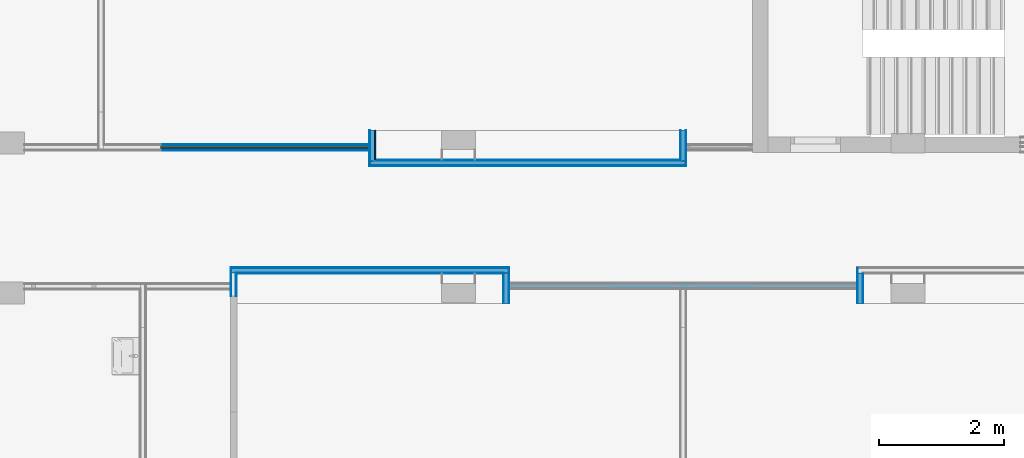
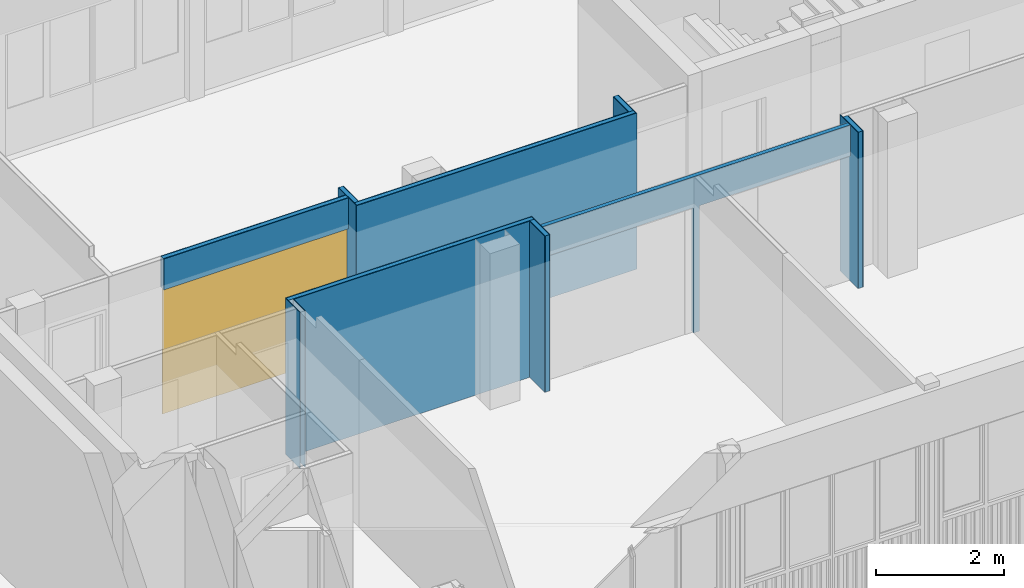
# One storey, part 73 of 117: 24 building element parts, 1 window, 3 openings, 9 elements without a shape of their own.
"""IFC2X3 building model written with IfcOpenShell, lengths in millimetres."""

from ifc_helpers import new_model, entity, si_unit, converted_unit, derived_unit, money_unit, direction, frame, origin_with_axes, place, context, subcontext, project, spatial, open_shell, faceted_brep, surface_model, material, type_object, element, fill, aggregate, save


model = new_model("IFC2X3")

# Units and contexts
model_context = context("Model", 3, precision=0.01, world=origin_with_axes(), true_north=direction((0.0, 1.0)))
body_context = subcontext(model_context, "Body", "Model", "MODEL_VIEW")
ifc_project = project(units=[si_unit("LENGTHUNIT", "METRE", prefix="MILLI"), si_unit("AREAUNIT", "SQUARE_METRE"), si_unit("VOLUMEUNIT", "CUBIC_METRE"), converted_unit("PLANEANGLEUNIT", "DEGREE", entity("IfcPlaneAngleMeasure", 0.0174532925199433), si_unit("PLANEANGLEUNIT", "RADIAN"), dimensions=[0, 0, 0, 0, 0, 0, 0]), money_unit("EUR"), converted_unit("TIMEUNIT", "Year", entity("IfcTimeMeasure", 31557600.0), si_unit("TIMEUNIT", "SECOND"), dimensions=[0, 0, 1, 0, 0, 0, 0]), si_unit("MASSUNIT", "GRAM", prefix="KILO"), si_unit("THERMODYNAMICTEMPERATUREUNIT", "DEGREE_CELSIUS"), si_unit("LUMINOUSINTENSITYUNIT", "LUMEN"), si_unit("ENERGYUNIT", "JOULE", prefix="MEGA"), derived_unit("THERMALCONDUCTANCEUNIT", [(si_unit("POWERUNIT", "WATT"), 1), (si_unit("LENGTHUNIT", "METRE"), -1), (si_unit("THERMODYNAMICTEMPERATUREUNIT", "KELVIN"), -1)]), derived_unit("SPECIFICHEATCAPACITYUNIT", [(si_unit("ENERGYUNIT", "JOULE"), 1), (si_unit("MASSUNIT", "GRAM", prefix="KILO"), -1), (si_unit("THERMODYNAMICTEMPERATUREUNIT", "KELVIN"), -1)]), derived_unit("MASSDENSITYUNIT", [(si_unit("MASSUNIT", "GRAM", prefix="KILO"), 1), (si_unit("VOLUMEUNIT", "CUBIC_METRE"), -1)])], contexts=[model_context])

# Site, building, storey
site_placement = place(None, origin_with_axes())
site = spatial("IfcSite", under=ifc_project, at=site_placement, Name="Site", CompositionType="ELEMENT")
building_placement = place(site_placement, origin_with_axes())
building = spatial("IfcBuilding", under=site, at=building_placement, Name="Naam gebouw", CompositionType="ELEMENT")
storey_placement = place(building_placement, frame((0.0, 0.0, 4150.0), z_axis=(0.0, 0.0, 1.0), x_axis=(1.0, 0.0, 0.0)))
storey = spatial("IfcBuildingStorey", under=building, at=storey_placement, Name="1e verdieping N", CompositionType="ELEMENT", Elevation=4150.0)

# Window
window_style = type_object("IfcWindowStyle", Name="R1 26", ConstructionType="NOTDEFINED", OperationType="SINGLE_PANEL", ParameterTakesPrecedence=False, Sizeable=False)
wall_8_placement = place(storey_placement, frame((2429.986500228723, 12825.85635739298, 0.0), z_axis=(0.0, 0.0, 1.0), x_axis=(1.0, 0.0, 0.0)))
opening_3_placement = place(wall_8_placement, frame((1672.256490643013, 0.0, 0.0), z_axis=(0.0, 0.0, 1.0), x_axis=(1.0, 0.0, 0.0)))
window_placement = place(opening_3_placement, frame((-1672.256490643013, 0.0, 0.0), z_axis=(0.0, 0.0, 1.0), x_axis=(1.0, 0.0, 0.0)))
window = element("IfcWindow", 1, at=window_placement, inside=storey, type_object=window_style, Name="_Merk-002", ObjectType="WINDOW", OverallHeight=2400.0, OverallWidth=3344.51, context=body_context, shape_type="SurfaceModel", body=[
    faceted_brep([(3314.512981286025, -9.999999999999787, 2370.0), (3344.512981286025, -9.999999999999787, 2370.0), (3344.512981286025, 9.999999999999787, 2370.0), (3314.512981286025, 9.999999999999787, 2370.0), (3314.512981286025, -9.999999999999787, 30.00000000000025), (3344.512981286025, -9.999999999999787, 30.00000000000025), (3344.512981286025, 9.999999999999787, 30.00000000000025), (3314.512981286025, 9.999999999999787, 30.00000000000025)], [[[0, 1, 2, 3]], [[0, 4, 5, 1]], [[1, 5, 6, 2]], [[3, 2, 6, 7]], [[4, 0, 3, 7]], [[5, 4, 7, 6]]]),
    faceted_brep([(29.9999999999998, -9.999999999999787, 30.00000000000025), (0.0, -9.999999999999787, 30.00000000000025), (0.0, 9.999999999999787, 30.00000000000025), (29.9999999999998, 9.999999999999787, 30.00000000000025), (29.9999999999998, -9.999999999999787, 2370.0), (0.0, -9.999999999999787, 2370.0), (0.0, 9.999999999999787, 2370.0), (29.9999999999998, 9.999999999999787, 2370.0)], [[[0, 1, 2, 3]], [[0, 4, 5, 1]], [[1, 5, 6, 2]], [[3, 2, 6, 7]], [[4, 0, 3, 7]], [[5, 4, 7, 6]]]),
    faceted_brep([(3314.512981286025, -9.999999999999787, 30.00000000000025), (3344.512981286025, -9.999999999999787, 30.00000000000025), (3344.512981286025, 9.999999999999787, 30.00000000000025), (3314.512981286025, 9.999999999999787, 30.00000000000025), (29.9999999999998, -9.999999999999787, 30.00000000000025), (0.0, -9.999999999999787, 30.00000000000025), (0.0, -9.999999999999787, 0.0), (3344.512981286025, -9.999999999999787, 0.0), (3344.512981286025, 9.999999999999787, 0.0), (0.0, 9.999999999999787, 0.0), (0.0, 9.999999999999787, 30.00000000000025), (29.9999999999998, 9.999999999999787, 30.00000000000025)], [[[0, 1, 2, 3]], [[0, 4, 5, 6, 7, 1]], [[1, 7, 8, 2]], [[3, 2, 8, 9, 10, 11]], [[4, 0, 3, 11]], [[5, 4, 11, 10]], [[6, 5, 10, 9]], [[7, 6, 9, 8]]]),
    faceted_brep([(29.9999999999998, -9.999999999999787, 2370.0), (0.0, -9.999999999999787, 2370.0), (0.0, 9.999999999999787, 2370.0), (29.9999999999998, 9.999999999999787, 2370.0), (3314.512981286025, -9.999999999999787, 2370.0), (3344.512981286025, -9.999999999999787, 2370.0), (3344.512981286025, -9.999999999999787, 2400.0), (0.0, -9.999999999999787, 2400.0), (0.0, 9.999999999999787, 2400.0), (3344.512981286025, 9.999999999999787, 2400.0), (3344.512981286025, 9.999999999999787, 2370.0), (3314.512981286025, 9.999999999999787, 2370.0)], [[[0, 1, 2, 3]], [[0, 4, 5, 6, 7, 1]], [[1, 7, 8, 2]], [[3, 2, 8, 9, 10, 11]], [[4, 0, 3, 11]], [[5, 4, 11, 10]], [[6, 5, 10, 9]], [[7, 6, 9, 8]]]),
    surface_model("IfcShellBasedSurfaceModel", [(3314.512981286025, -9.999999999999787, 30.00000000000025), (3314.512981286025, -9.999999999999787, 2370.0), (29.9999999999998, -9.999999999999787, 2370.0), (29.9999999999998, -9.999999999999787, 30.00000000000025)], [open_shell([[[0, 1, 2, 3]]])]),
    surface_model("IfcShellBasedSurfaceModel", [(3314.512981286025, 0.0, 30.00000000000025), (29.9999999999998, 0.0, 30.00000000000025), (29.9999999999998, 0.0, 2370.0), (3314.512981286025, 0.0, 2370.0)], [open_shell([[[0, 1, 2, 3]]])]),
])

# Wall, building element parts
wall_type = type_object("IfcWallType", Name="Metalstud iso 100 100", PredefinedType="NOTDEFINED")
wall_1_placement = place(storey_placement, frame((5874.499481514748, 13100.85635739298, 0.0), z_axis=(0.0, 0.0, 1.0), x_axis=(0.0, -1.0, 0.0)))
wall_1 = element("IfcWall", 2, at=wall_1_placement, inside=storey, type_object=wall_type, Name="_Wand-x")
ifc_material_1 = material(Name="Gipsplaat")
building_element_part_1_placement = place(wall_1_placement, origin_with_axes())
building_element_part_1 = element("IfcBuildingElementPart", 3, at=building_element_part_1_placement, material=ifc_material_1, Name="Gipsplaat", context=body_context, shape_type="Brep", body=[
    faceted_brep([(3.255706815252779e-08, -12.50000000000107, 2049.999999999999), (6.646239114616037e-08, 0.0, 2049.999999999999), (0.0, 0.0, 0.0), (0.0, -12.50000000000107, 0.0), (430.0000000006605, 0.0, 2049.999999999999), (430.0000000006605, -12.50000000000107, 2049.999999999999), (450.0000000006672, 0.0, 2049.999999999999), (450.0000000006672, 0.0, 2069.999999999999), (6.646239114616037e-08, 0.0, 2069.999999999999), (0.0, 0.0, 2990.000000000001), (474.9999999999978, 0.0, 2990.000000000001), (474.9999999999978, 0.0, 0.0), (430.0000000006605, 0.0, 49.99999999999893), (450.0000000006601, 0.0, 49.99999999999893), (474.9999999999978, -12.50000000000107, 0.0), (450.0000000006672, -12.50000000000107, 2069.999999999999), (450.0000000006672, -12.50000000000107, 2049.999999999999), (450.0000000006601, -12.50000000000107, 49.99999999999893), (430.0000000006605, -12.50000000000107, 49.99999999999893), (474.9999999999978, -12.50000000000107, 2990.000000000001), (0.0, -12.50000000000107, 2990.000000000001), (3.255706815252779e-08, -12.50000000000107, 2069.999999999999)], [[[0, 1, 2, 3]], [[4, 1, 0, 5]], [[6, 7, 8, 9, 10, 11, 2, 1, 4, 12, 13]], [[2, 11, 14, 3]], [[15, 16, 17, 18, 5, 0, 3, 14, 19, 20, 21]], [[4, 5, 18, 12]], [[7, 6, 16, 15]], [[21, 8, 7, 15]], [[8, 21, 20, 9]], [[10, 9, 20, 19]], [[10, 19, 14, 11]], [[17, 13, 12, 18]], [[16, 6, 13, 17]]]),
])
ifc_material_2 = material(Name="Isolatie - Steenwol LSW")
building_element_part_2_placement = place(wall_1_placement, origin_with_axes())
building_element_part_2 = element("IfcBuildingElementPart", 4, at=building_element_part_2_placement, material=ifc_material_2, Name="Isolatie - Steenwol LSW", context=body_context, shape_type="Brep", body=[
    faceted_brep([(450.0000000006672, -12.50000000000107, 2049.999999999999), (450.0000000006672, -12.50000000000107, 2069.999999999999), (3.255706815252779e-08, -12.50000000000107, 2069.999999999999), (0.0, -12.50000000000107, 2990.000000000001), (487.4999999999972, -12.50000000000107, 2990.000000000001), (487.4999999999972, -12.50000000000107, 0.0), (0.0, -12.50000000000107, 0.0), (3.255706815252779e-08, -12.50000000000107, 2049.999999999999), (430.0000000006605, -12.50000000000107, 2049.999999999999), (430.0000000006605, -12.50000000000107, 49.99999999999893), (450.0000000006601, -12.50000000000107, 49.99999999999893), (450.0000000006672, -24.49948151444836, 2049.999999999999), (450.0000000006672, -24.49948151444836, 2069.999999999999), (0.0, -24.49948151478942, 2069.999999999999), (0.0, -24.49948151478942, 2049.999999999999), (0.0, -87.50000000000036, 0.0), (0.0, -87.50000000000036, 2990.000000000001), (487.4999999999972, -87.50000000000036, 2990.000000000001), (487.4999999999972, -87.50000000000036, 0.0), (430.0000000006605, -24.49948151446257, 2049.999999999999), (430.0000000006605, -24.49948151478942, 49.99999999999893), (450.0000000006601, -24.49948151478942, 49.99999999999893)], [[[0, 1, 2, 3, 4, 5, 6, 7, 8, 9, 10]], [[1, 0, 11, 12]], [[13, 2, 1, 12]], [[14, 7, 6, 15, 16, 3, 2, 13]], [[4, 3, 16, 17]], [[4, 17, 18, 5]], [[6, 5, 18, 15]], [[8, 7, 14, 19]], [[8, 19, 20, 9]], [[21, 10, 9, 20]], [[11, 0, 10, 21]], [[14, 13, 12, 11, 19]], [[17, 16, 15, 18]], [[19, 11, 21, 20]]]),
])
building_element_part_3_placement = place(wall_1_placement, origin_with_axes())
building_element_part_3 = element("IfcBuildingElementPart", 5, at=building_element_part_3_placement, material=ifc_material_1, Name="Gipsplaat", context=body_context, shape_type="Brep", body=[
    faceted_brep([(0.0, -99.99999999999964, 2990.000000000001), (0.0, -87.50000000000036, 2990.000000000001), (0.0, -87.50000000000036, 0.0), (0.0, -99.99999999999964, 0.0), (562.4999999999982, -87.50000000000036, 2990.000000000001), (562.4999999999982, -99.99999999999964, 2990.000000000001), (562.4999999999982, -87.50000000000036, 0.0), (562.4999999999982, -99.99999999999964, 0.0)], [[[0, 1, 2, 3]], [[4, 1, 0, 5]], [[1, 4, 6, 2]], [[6, 7, 3, 2]], [[5, 0, 3, 7]], [[4, 5, 7, 6]]]),
])
aggregate(wall_1, [building_element_part_1, building_element_part_2, building_element_part_3])

wall_2_placement = place(storey_placement, frame((13684.99999999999, 10330.91242510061, 0.0), z_axis=(0.0, 0.0, 1.0), x_axis=(0.0, 1.0, 0.0)))
wall_2 = element("IfcWall", 6, at=wall_2_placement, inside=storey, type_object=wall_type, Name="_Wand-x")
building_element_part_4_placement = place(wall_2_placement, origin_with_axes())
building_element_part_4 = element("IfcBuildingElementPart", 7, at=building_element_part_4_placement, material=ifc_material_2, Name="Isolatie - Steenwol LSW", context=body_context, shape_type="Brep", body=[
    faceted_brep([(487.4999999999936, 87.50000000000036, 2990.000000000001), (487.4999999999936, 12.50000000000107, 2990.000000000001), (487.4999999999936, 12.49999999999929, 0.0), (487.4999999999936, 87.50000000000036, 0.0), (0.0, 12.50000000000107, 2990.000000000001), (0.0, 87.50000000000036, 2990.000000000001), (0.0, 12.49999999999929, 0.0), (0.0, 87.50000000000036, 0.0)], [[[0, 1, 2, 3]], [[4, 1, 0, 5]], [[1, 4, 6, 2]], [[3, 2, 6, 7]], [[5, 0, 3, 7]], [[4, 5, 7, 6]]]),
])
building_element_part_5_placement = place(wall_2_placement, origin_with_axes())
building_element_part_5 = element("IfcBuildingElementPart", 8, at=building_element_part_5_placement, material=ifc_material_1, Name="Gipsplaat", context=body_context, shape_type="Brep", body=[
    faceted_brep([(562.4999999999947, 99.99999999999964, 2990.000000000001), (562.4999999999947, 87.50000000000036, 2990.000000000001), (562.4999999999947, 87.50000000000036, 0.0), (562.4999999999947, 99.99999999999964, 0.0), (0.0, 87.50000000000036, 2990.000000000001), (0.0, 99.99999999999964, 2990.000000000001), (0.0, 87.50000000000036, 0.0), (0.0, 99.99999999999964, 0.0)], [[[0, 1, 2, 3]], [[4, 1, 0, 5]], [[1, 4, 6, 2]], [[3, 2, 6, 7]], [[5, 0, 3, 7]], [[4, 5, 7, 6]]]),
])
building_element_part_6_placement = place(wall_2_placement, origin_with_axes())
building_element_part_6 = element("IfcBuildingElementPart", 9, at=building_element_part_6_placement, material=ifc_material_1, Name="Gipsplaat", context=body_context, shape_type="Brep", body=[
    faceted_brep([(474.9999999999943, 12.50000000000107, 2990.000000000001), (474.9999999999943, 0.0, 2990.000000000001), (474.9999999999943, 0.0, 0.0), (474.9999999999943, 12.49999999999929, 0.0), (0.0, 0.0, 2990.000000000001), (0.0, 12.50000000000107, 2990.000000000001), (0.0, 0.0, 0.0), (0.0, 12.49999999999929, 0.0)], [[[0, 1, 2, 3]], [[4, 1, 0, 5]], [[1, 4, 6, 2]], [[3, 2, 6, 7]], [[5, 0, 3, 7]], [[4, 5, 7, 6]]]),
])
aggregate(wall_2, [building_element_part_4, building_element_part_5, building_element_part_6])

wall_3_placement = place(storey_placement, frame((10750.0, 12625.85635739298, 0.0), z_axis=(0.0, 0.0, 1.0), x_axis=(0.0, 1.0, 0.0)))
wall_3 = element("IfcWall", 10, at=wall_3_placement, inside=storey, type_object=wall_type, Name="_Wand-x")
building_element_part_7_placement = place(wall_3_placement, origin_with_axes())
building_element_part_7 = element("IfcBuildingElementPart", 11, at=building_element_part_7_placement, material=ifc_material_1, Name="Gipsplaat", context=body_context, shape_type="Brep", body=[
    faceted_brep([(475.0055161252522, 0.0, 2990.000000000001), (475.0055161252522, -12.49999999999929, 2990.000000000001), (475.0055161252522, -12.49999999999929, 0.0), (475.0055161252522, 0.0, 0.0), (0.0, -12.49999999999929, 2990.000000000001), (0.0, 0.0, 2990.000000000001), (0.0, -12.49999999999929, 0.0), (0.0, 0.0, 0.0)], [[[0, 1, 2, 3]], [[4, 1, 0, 5]], [[1, 4, 6, 2]], [[7, 3, 2, 6]], [[5, 0, 3, 7]], [[4, 5, 7, 6]]]),
])
building_element_part_8_placement = place(wall_3_placement, origin_with_axes())
building_element_part_8 = element("IfcBuildingElementPart", 12, at=building_element_part_8_placement, material=ifc_material_2, Name="Isolatie - Steenwol LSW", context=body_context, shape_type="Brep", body=[
    faceted_brep([(475.0055161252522, -12.49999999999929, 2990.000000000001), (475.0055161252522, -87.49999999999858, 2990.000000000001), (475.0055161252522, -87.49999999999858, 0.0), (475.0055161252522, -12.49999999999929, 0.0), (-12.49999999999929, -87.49999999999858, 2990.000000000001), (-12.49999999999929, -12.49999999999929, 2990.000000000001), (-12.49999999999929, -87.49999999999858, 0.0), (-12.49999999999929, -12.49999999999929, 0.0)], [[[0, 1, 2, 3]], [[4, 1, 0, 5]], [[1, 4, 6, 2]], [[7, 3, 2, 6]], [[5, 0, 3, 7]], [[4, 5, 7, 6]]]),
])
building_element_part_9_placement = place(wall_3_placement, origin_with_axes())
building_element_part_9 = element("IfcBuildingElementPart", 13, at=building_element_part_9_placement, material=ifc_material_1, Name="Gipsplaat", context=body_context, shape_type="Brep", body=[
    faceted_brep([(475.0055161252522, -87.49999999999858, 2990.000000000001), (475.0055161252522, -100.0000000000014, 2990.000000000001), (475.0055161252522, -100.0000000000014, 0.0), (475.0055161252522, -87.49999999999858, 0.0), (-87.50000000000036, -100.0000000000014, 2990.000000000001), (-87.50000000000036, -87.49999999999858, 2990.000000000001), (-87.50000000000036, -100.0000000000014, 0.0), (-87.50000000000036, -87.49999999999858, 0.0)], [[[0, 1, 2, 3]], [[4, 1, 0, 5]], [[1, 4, 6, 2]], [[7, 3, 2, 6]], [[5, 0, 3, 7]], [[4, 5, 7, 6]]]),
])
aggregate(wall_3, [building_element_part_7, building_element_part_8, building_element_part_9])

wall_4_placement = place(storey_placement, frame((3649.999999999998, 10805.91242510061, 0.0), z_axis=(0.0, 0.0, 1.0), x_axis=(0.0, -1.0, 0.0)))
wall_4 = element("IfcWall", 14, at=wall_4_placement, inside=storey, type_object=wall_type, Name="_Wand-x")
building_element_part_10_placement = place(wall_4_placement, origin_with_axes())
building_element_part_10 = element("IfcBuildingElementPart", 15, at=building_element_part_10_placement, material=ifc_material_1, Name="Gipsplaat", context=body_context, shape_type="Brep", body=[
    faceted_brep([(-87.50000000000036, -100.000000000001, 2990.000000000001), (-87.50000000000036, -87.49999999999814, 2990.000000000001), (-87.50000000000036, -87.49999999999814, 0.0), (-87.50000000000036, -100.000000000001, 0.0), (359.9973703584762, -87.49999999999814, 2990.000000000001), (359.9973703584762, -100.0000041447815, 2990.000000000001), (359.9973703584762, -87.49999999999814, 0.0), (359.9973703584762, -100.000000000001, 0.0)], [[[0, 1, 2, 3]], [[4, 1, 0, 5]], [[1, 4, 6, 2]], [[7, 3, 2, 6]], [[5, 0, 3, 7]], [[4, 5, 7, 6]]]),
])
building_element_part_11_placement = place(wall_4_placement, origin_with_axes())
building_element_part_11 = element("IfcBuildingElementPart", 16, at=building_element_part_11_placement, material=ifc_material_1, Name="Gipsplaat", context=body_context, shape_type="Brep", body=[
    faceted_brep([(0.0, -12.49999999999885, 2990.000000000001), (0.0, 0.0, 2990.000000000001), (0.0, 0.0, 0.0), (0.0, -12.5000000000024, 0.0), (359.9973703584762, 0.0, 2990.000000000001), (359.9973703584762, -12.49999999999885, 2990.000000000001), (359.9973703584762, 0.0, 0.0), (359.9973703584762, -12.49999999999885, 0.0)], [[[0, 1, 2, 3]], [[4, 1, 0, 5]], [[1, 4, 6, 2]], [[7, 3, 2, 6]], [[5, 0, 3, 7]], [[4, 5, 7, 6]]]),
])
aggregate(wall_4, [building_element_part_10, building_element_part_11])

# Wall, openings, building element part
wall_5_placement = place(storey_placement, frame((8015.000000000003, 10605.91242510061, 0.0), z_axis=(0.0, 0.0, 1.0), x_axis=(1.0, 0.0, 0.0)))
wall_5 = element("IfcWall", 17, at=wall_5_placement, inside=storey, type_object=wall_type, Name="_Wand-x")
opening_1_placement = place(wall_5_placement, frame((4202.499999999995, 0.0, 0.0), z_axis=(0.0, 0.0, 1.0), x_axis=(1.0, 0.0, 0.0)))
element("IfcOpeningElement", 18, at=opening_1_placement, cuts=wall_5, Name="_Merk-x", context=body_context, shape_type="Brep", body=[
    faceted_brep([(-1367.499999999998, 9.999999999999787, 0.0), (-1367.499999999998, 9.999999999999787, 2400.0), (-1367.499999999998, 51.00000000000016, 2400.0), (-1367.499999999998, 51.00000000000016, 0.0), (-1367.499999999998, -51.00000000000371, 0.0), (-1367.499999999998, -51.00000000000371, 2400.0), (1367.499999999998, 9.999999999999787, 2400.0), (1367.499999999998, 51.00000000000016, 2400.0), (1367.499999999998, -51.00000000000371, 2400.0), (1367.499999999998, 51.00000000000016, 0.0), (1367.499999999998, 9.99999999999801, 0.0), (1367.499999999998, -51.00000000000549, 0.0)], [[[0, 1, 2, 3]], [[1, 0, 4, 5]], [[6, 7, 2, 1, 5, 8]], [[7, 9, 3, 2]], [[0, 3, 9, 10, 11, 4]], [[5, 4, 11, 8]], [[6, 10, 9, 7]], [[10, 6, 8, 11]]]),
])
opening_2_placement = place(wall_5_placement, frame((1367.499999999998, 0.0, 0.0), z_axis=(0.0, 0.0, 1.0), x_axis=(1.0, 0.0, 0.0)))
element("IfcOpeningElement", 19, at=opening_2_placement, cuts=wall_5, Name="_Merk-x", context=body_context, shape_type="Brep", body=[
    faceted_brep([(-1367.499999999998, 9.999999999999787, 0.0), (-1367.499999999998, 9.999999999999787, 2400.0), (-1367.499999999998, 51.00000000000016, 2400.0), (-1367.499999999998, 51.00000000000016, 0.0), (-1367.499999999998, -51.00000000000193, 0.0), (-1367.499999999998, -51.00000000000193, 2400.0), (1367.499999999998, 9.999999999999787, 2400.0), (1367.499999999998, 51.00000000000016, 2400.0), (1367.499999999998, -51.00000000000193, 2400.0), (1367.499999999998, 51.00000000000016, 0.0), (1367.499999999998, 9.99999999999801, 0.0), (1367.499999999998, -51.00000000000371, 0.0)], [[[0, 1, 2, 3]], [[1, 0, 4, 5]], [[6, 7, 2, 1, 5, 8]], [[7, 9, 3, 2]], [[0, 3, 9, 10, 11, 4]], [[5, 4, 11, 8]], [[6, 10, 9, 7]], [[10, 6, 8, 11]]]),
])
building_element_part_12_placement = place(wall_5_placement, origin_with_axes())
building_element_part_12 = element("IfcBuildingElementPart", 20, at=building_element_part_12_placement, material=ifc_material_2, Name="Isolatie - Steenwol LSW", context=body_context, shape_type="Brep", body=[
    faceted_brep([(2734.999999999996, 9.99999999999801, 0.0), (2734.999999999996, -37.49999999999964, 0.0), (2734.999999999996, -37.49999999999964, 2400.0), (2734.999999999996, 37.49999999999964, 2400.0), (2734.999999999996, 37.49999999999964, 0.0), (2834.999999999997, 37.49999999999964, 0.0), (2834.999999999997, -37.49999999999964, 0.0), (2834.999999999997, -37.49999999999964, 2400.0), (5569.999999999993, -37.49999999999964, 2400.0), (5569.999999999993, -37.49999999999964, 2990.000000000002), (0.0, -37.49999999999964, 2990.000000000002), (0.0, -37.49999999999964, 2400.0), (0.0, 9.999999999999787, 2400.0), (0.0, 37.49999999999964, 2400.0), (2834.999999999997, 37.49999999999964, 2400.0), (0.0, 37.49999999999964, 2990.000000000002), (5569.999999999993, 37.49999999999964, 2990.000000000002), (5569.999999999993, 37.49999999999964, 2400.0)], [[[0, 1, 2, 3, 4]], [[1, 0, 4, 5, 6]], [[2, 1, 6, 7, 8, 9, 10, 11]], [[3, 2, 11, 12, 13]], [[14, 5, 4, 3, 13, 15, 16, 17]], [[5, 14, 7, 6]], [[14, 17, 8, 7]], [[16, 9, 8, 17]], [[16, 15, 10, 9]], [[12, 11, 10, 15, 13]]]),
])
aggregate(wall_5, [building_element_part_12])

# Wall, building element parts
wall_6_placement = place(storey_placement, frame((3649.999999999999, 10805.91242510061, 0.0), z_axis=(0.0, 0.0, 1.0), x_axis=(1.0, 0.0, 0.0)))
wall_6 = element("IfcWall", 21, at=wall_6_placement, inside=storey, type_object=wall_type, Name="_Wand-x")
building_element_part_13_placement = place(wall_6_placement, origin_with_axes())
building_element_part_13 = element("IfcBuildingElementPart", 22, at=building_element_part_13_placement, material=ifc_material_1, Name="Gipsplaat", context=body_context, shape_type="Brep", body=[
    faceted_brep([(-100.0000000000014, 99.99999999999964, 2990.000000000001), (4365.000000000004, 99.99999999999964, 2990.000000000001), (4365.000000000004, 99.99999999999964, 0.0), (-100.0000000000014, 99.99999999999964, 0.0), (4365.000000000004, 87.50000000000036, 2990.000000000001), (-100.0000000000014, 87.50000000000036, 2990.000000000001), (4365.000000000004, 87.50000000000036, 0.0), (-100.0000000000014, 87.50000000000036, 0.0)], [[[0, 1, 2, 3]], [[4, 1, 0, 5]], [[1, 4, 6, 2]], [[2, 6, 7, 3]], [[5, 0, 3, 7]], [[4, 5, 7, 6]]]),
])
building_element_part_14_placement = place(wall_6_placement, origin_with_axes())
building_element_part_14 = element("IfcBuildingElementPart", 23, at=building_element_part_14_placement, material=ifc_material_2, Name="Isolatie - Steenwol LSW", context=body_context, shape_type="Brep", body=[
    faceted_brep([(-87.50000000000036, 87.50000000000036, 2990.000000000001), (4352.500000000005, 87.50000000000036, 2990.000000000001), (4352.500000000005, 87.50000000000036, 0.0), (-87.50000000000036, 87.50000000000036, 0.0), (4352.500000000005, 12.50000000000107, 2990.000000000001), (-87.50000000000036, 12.50000000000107, 2990.000000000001), (4352.500000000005, 12.50000000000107, 0.0), (-87.50000000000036, 12.49999999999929, 0.0)], [[[0, 1, 2, 3]], [[4, 1, 0, 5]], [[1, 4, 6, 2]], [[2, 6, 7, 3]], [[5, 0, 3, 7]], [[4, 5, 7, 6]]]),
])
building_element_part_15_placement = place(wall_6_placement, origin_with_axes())
building_element_part_15 = element("IfcBuildingElementPart", 24, at=building_element_part_15_placement, material=ifc_material_1, Name="Gipsplaat", context=body_context, shape_type="Brep", body=[
    faceted_brep([(-12.50000000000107, 12.50000000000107, 2990.000000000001), (4277.500000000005, 12.50000000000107, 2990.000000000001), (4277.500000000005, 12.50000000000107, 0.0), (-12.50000000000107, 12.49999999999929, 0.0), (4277.500000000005, 0.0, 2990.000000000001), (-12.50000000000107, 0.0, 2990.000000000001), (4277.500000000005, 0.0, 0.0), (-12.50000000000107, 0.0, 0.0)], [[[0, 1, 2, 3]], [[4, 1, 0, 5]], [[1, 4, 6, 2]], [[2, 6, 7, 3]], [[5, 0, 3, 7]], [[4, 5, 7, 6]]]),
])
aggregate(wall_6, [building_element_part_13, building_element_part_14, building_element_part_15])

wall_7_placement = place(storey_placement, frame((7915.000000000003, 10330.91242510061, 0.0), z_axis=(0.0, 0.0, 1.0), x_axis=(0.0, 1.0, 0.0)))
wall_7 = element("IfcWall", 25, at=wall_7_placement, inside=storey, type_object=wall_type, Name="_Wand-x")
building_element_part_16_placement = place(wall_7_placement, origin_with_axes())
building_element_part_16 = element("IfcBuildingElementPart", 26, at=building_element_part_16_placement, material=ifc_material_1, Name="Gipsplaat", context=body_context, shape_type="Brep", body=[
    faceted_brep([(474.9999999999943, 0.0, 2990.000000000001), (474.9999999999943, -12.49999999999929, 2990.000000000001), (474.9999999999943, -12.49999999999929, 0.0), (474.9999999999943, 0.0, 0.0), (0.0, -12.49999999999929, 2990.000000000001), (0.0, 0.0, 2990.000000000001), (0.0, -12.49999999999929, 0.0), (0.0, 0.0, 0.0)], [[[0, 1, 2, 3]], [[4, 1, 0, 5]], [[1, 4, 6, 2]], [[7, 3, 2, 6]], [[5, 0, 3, 7]], [[4, 5, 7, 6]]]),
])
building_element_part_17_placement = place(wall_7_placement, origin_with_axes())
building_element_part_17 = element("IfcBuildingElementPart", 27, at=building_element_part_17_placement, material=ifc_material_1, Name="Gipsplaat", context=body_context, shape_type="Brep", body=[
    faceted_brep([(562.4999999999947, -87.50000000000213, 2990.000000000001), (562.4999999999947, -99.99999999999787, 2990.000000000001), (562.4999999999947, -99.99999999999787, 0.0), (562.4999999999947, -87.50000000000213, 0.0), (0.0, -99.99999999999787, 2990.000000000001), (0.0, -87.50000000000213, 2990.000000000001), (0.0, -99.99999999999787, 0.0), (0.0, -87.50000000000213, 0.0)], [[[0, 1, 2, 3]], [[4, 1, 0, 5]], [[1, 4, 6, 2]], [[7, 3, 2, 6]], [[5, 0, 3, 7]], [[4, 5, 7, 6]]]),
])
building_element_part_18_placement = place(wall_7_placement, origin_with_axes())
building_element_part_18 = element("IfcBuildingElementPart", 28, at=building_element_part_18_placement, material=ifc_material_2, Name="Isolatie - Steenwol LSW", context=body_context, shape_type="Brep", body=[
    faceted_brep([(487.4999999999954, -12.49999999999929, 2990.000000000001), (487.4999999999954, -87.50000000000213, 2990.000000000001), (487.4999999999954, -87.50000000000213, 0.0), (487.4999999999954, -12.49999999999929, 0.0), (0.0, -87.50000000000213, 2990.000000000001), (0.0, -12.49999999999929, 2990.000000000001), (0.0, -87.50000000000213, 0.0), (0.0, -12.49999999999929, 0.0)], [[[0, 1, 2, 3]], [[4, 1, 0, 5]], [[1, 4, 6, 2]], [[7, 3, 2, 6]], [[5, 0, 3, 7]], [[4, 5, 7, 6]]]),
])
aggregate(wall_7, [building_element_part_16, building_element_part_17, building_element_part_18])

# Wall, opening
wall_8 = element("IfcWall", 29, at=wall_8_placement, inside=storey, type_object=wall_type, Name="_Wand-x")
opening_3 = element("IfcOpeningElement", 30, at=opening_3_placement, cuts=wall_8, Name="_Merk-002", context=body_context, shape_type="Brep", body=[
    faceted_brep([(1672.256490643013, -10.00000000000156, 0.0), (1672.256490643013, -9.999999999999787, 2400.0), (1672.256490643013, -51.00000000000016, 2400.0), (1672.256490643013, -51.00000000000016, 0.0), (1672.256490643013, 51.00000000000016, 0.0), (1672.256490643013, 51.00000000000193, 2400.0), (-1672.256490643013, -9.999999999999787, 2400.0), (-1672.256490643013, -51.00000000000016, 2400.0), (-1672.256490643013, 51.00000000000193, 2400.0), (-1672.256490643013, -51.00000000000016, 0.0), (-1672.256490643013, -10.00000000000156, 0.0), (-1672.256490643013, 51.00000000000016, 0.0)], [[[0, 1, 2, 3]], [[1, 0, 4, 5]], [[6, 7, 2, 1, 5, 8]], [[7, 9, 3, 2]], [[0, 3, 9, 10, 11, 4]], [[5, 4, 11, 8]], [[6, 10, 9, 7]], [[10, 6, 8, 11]]]),
])

fill(opening_3, window)

# Building element part
building_element_part_19_placement = place(wall_8_placement, origin_with_axes())
building_element_part_19 = element("IfcBuildingElementPart", 31, at=building_element_part_19_placement, material=ifc_material_2, Name="Isolatie - Steenwol LSW", context=body_context, shape_type="Brep", body=[
    faceted_brep([(3344.512981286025, -9.999999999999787, 2400.0), (3344.512981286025, 37.49999999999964, 2400.0), (3344.512981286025, 37.49999999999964, 2990.000000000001), (3344.512981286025, -37.49999999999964, 2990.000000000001), (3344.512981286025, -37.49999999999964, 2400.0), (0.0, -9.999999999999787, 2400.0), (0.0, 37.49999999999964, 2400.0), (0.0, -37.49999999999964, 2400.0), (0.0, 37.49999999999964, 2990.000000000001), (0.0, -37.49999999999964, 2990.000000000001)], [[[0, 1, 2, 3, 4]], [[5, 6, 1, 0, 4, 7]], [[1, 6, 8, 2]], [[8, 9, 3, 2]], [[4, 3, 9, 7]], [[6, 5, 7, 9, 8]]]),
])

building_element_part_20_placement = place(wall_8_placement, origin_with_axes())
building_element_part_20 = element("IfcBuildingElementPart", 32, at=building_element_part_20_placement, material=ifc_material_1, Name="Gipsplaat", context=body_context, shape_type="Brep", body=[
    faceted_brep([(3344.512981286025, -49.99999999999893, 2400.0), (3344.512981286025, -37.49999999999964, 2400.0), (3344.512981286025, -37.49999999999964, 2990.000000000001), (3344.512981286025, -49.99999999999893, 2990.000000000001), (0.0, -37.49999999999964, 2400.0), (0.0, -49.99999999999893, 2400.0), (0.0, -37.49999999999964, 2990.000000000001), (0.0, -49.99999999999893, 2990.000000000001)], [[[0, 1, 2, 3]], [[4, 1, 0, 5]], [[1, 4, 6, 2]], [[2, 6, 7, 3]], [[5, 0, 3, 7]], [[4, 5, 7, 6]]]),
])

building_element_part_21_placement = place(wall_8_placement, origin_with_axes())
building_element_part_21 = element("IfcBuildingElementPart", 33, at=building_element_part_21_placement, material=ifc_material_1, Name="Gipsplaat", context=body_context, shape_type="Brep", body=[
    faceted_brep([(3344.512981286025, 37.49999999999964, 2400.0), (3344.512981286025, 50.00000000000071, 2400.0), (3344.512981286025, 50.00000000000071, 2990.000000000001), (3344.512981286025, 37.49999999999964, 2990.000000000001), (0.0, 50.00000000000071, 2400.0), (0.0, 37.49999999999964, 2400.0), (0.0, 50.00000000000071, 2990.000000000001), (0.0, 37.49999999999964, 2990.000000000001)], [[[0, 1, 2, 3]], [[4, 1, 0, 5]], [[1, 4, 6, 2]], [[2, 6, 7, 3]], [[5, 0, 3, 7]], [[4, 5, 7, 6]]]),
])

aggregate(wall_8, [building_element_part_19, building_element_part_20, building_element_part_21])

# Wall, building element parts
wall_9_placement = place(storey_placement, frame((10750.0, 12625.85635739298, 0.0), z_axis=(0.0, 0.0, 1.0), x_axis=(-1.0, 0.0, 0.0)))
wall_9 = element("IfcWall", 34, at=wall_9_placement, inside=storey, type_object=wall_type, Name="_Wand-x")
building_element_part_22_placement = place(wall_9_placement, origin_with_axes())
building_element_part_22 = element("IfcBuildingElementPart", 35, at=building_element_part_22_placement, material=ifc_material_1, Name="Gipsplaat", context=body_context, shape_type="Brep", body=[
    faceted_brep([(4975.500518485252, 87.50000000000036, 2990.000000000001), (-100.0000000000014, 87.50000000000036, 2990.000000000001), (-100.0000000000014, 87.50000000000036, 0.0), (4975.500518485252, 87.50000000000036, 0.0), (-100.0000000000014, 99.99999999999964, 2990.000000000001), (4975.500518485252, 99.99999999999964, 2990.000000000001), (-100.0000000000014, 99.99999999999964, 0.0), (4975.500518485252, 99.99999999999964, 0.0)], [[[0, 1, 2, 3]], [[4, 1, 0, 5]], [[1, 4, 6, 2]], [[7, 3, 2, 6]], [[5, 0, 3, 7]], [[4, 5, 7, 6]]]),
])
building_element_part_23_placement = place(wall_9_placement, origin_with_axes())
building_element_part_23 = element("IfcBuildingElementPart", 36, at=building_element_part_23_placement, material=ifc_material_2, Name="Isolatie - Steenwol LSW", context=body_context, shape_type="Brep", body=[
    faceted_brep([(4963.000518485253, 12.49999999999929, 2990.000000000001), (-87.49999999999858, 12.50000000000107, 2990.000000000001), (-87.49999999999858, 12.49999999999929, 0.0), (4963.000518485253, 12.49999999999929, 0.0), (-87.49999999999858, 87.50000000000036, 2990.000000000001), (4963.000518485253, 87.50000000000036, 2990.000000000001), (-87.49999999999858, 87.50000000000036, 0.0), (4963.000518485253, 87.50000000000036, 0.0)], [[[0, 1, 2, 3]], [[4, 1, 0, 5]], [[1, 4, 6, 2]], [[7, 3, 2, 6]], [[5, 0, 3, 7]], [[4, 5, 7, 6]]]),
])
building_element_part_24_placement = place(wall_9_placement, origin_with_axes())
building_element_part_24 = element("IfcBuildingElementPart", 37, at=building_element_part_24_placement, material=ifc_material_1, Name="Gipsplaat", context=body_context, shape_type="Brep", body=[
    faceted_brep([(4888.000518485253, 0.0, 2990.000000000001), (-12.49999999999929, 0.0, 2990.000000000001), (-12.49999999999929, 0.0, 0.0), (4888.000518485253, 0.0, 0.0), (-12.49999999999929, 12.50000000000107, 2990.000000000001), (4888.000518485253, 12.49999999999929, 2990.000000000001), (-12.49999999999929, 12.49999999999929, 0.0), (4888.000518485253, 12.49999999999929, 0.0)], [[[0, 1, 2, 3]], [[4, 1, 0, 5]], [[1, 4, 6, 2]], [[7, 3, 2, 6]], [[5, 0, 3, 7]], [[4, 5, 7, 6]]]),
])
aggregate(wall_9, [building_element_part_22, building_element_part_23, building_element_part_24])

save(model, "model.ifc")
